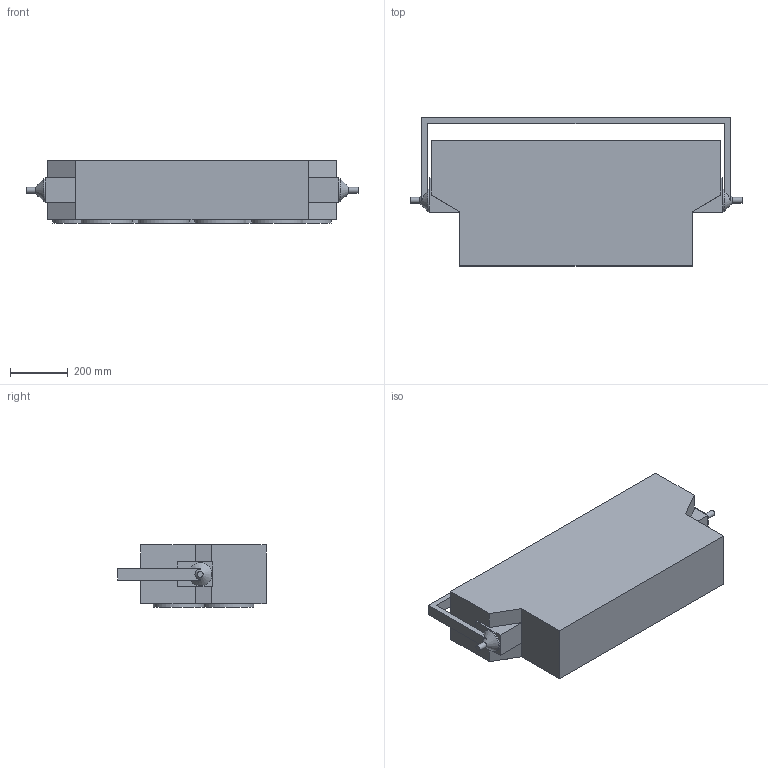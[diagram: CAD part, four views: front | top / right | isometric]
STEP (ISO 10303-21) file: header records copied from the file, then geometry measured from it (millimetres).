
FILE_DESCRIPTION(/* description */ ('Unknown'),/* implementation_level */ '2;1');
FILE_NAME(/* name */ 'SVOPATT9_Head',/* time_stamp */ '2024-07-04T15:20:06+02:00',/* author */ ('Unknown'),/* organization */ ('Unknown'),/* preprocessor_version */ 'ST-DEVELOPER v19.4',/* originating_system */ 'Solid Edge',/* authorisation */ 'Unknown');
FILE_SCHEMA (('AUTOMOTIVE_DESIGN {1 0 10303 214 3 1 1}'));
Length unit declared in the file: millimetre
Products named in the file (1): SVOPATT9_Head
Bounding box: 1151.4 x 513.4 x 215.8 mm (x, y, z)
Volume: 84821924.7 mm3; surface area: 1633115.2 mm2
Topology: 1 solids, 1 shells, 60 faces, 141 edges, 94 vertices
Faces by surface type: plane 45, cylinder 13, cone 2
Full cylindrical faces by diameter (mm): 20 x2, 80 x2, 177 x9
Entity records: 1662 total; most frequent: CARTESIAN_POINT 305, DIRECTION 270, ORIENTED_EDGE 244, EDGE_CURVE 122, AXIS2_PLACEMENT_3D 91, VERTEX_POINT 90, LINE 88, VECTOR 88
